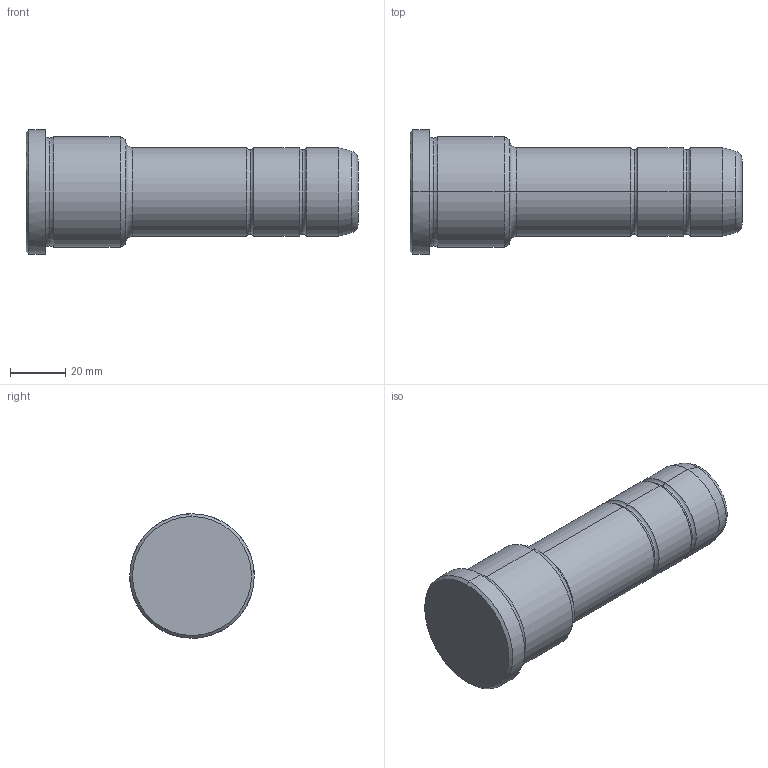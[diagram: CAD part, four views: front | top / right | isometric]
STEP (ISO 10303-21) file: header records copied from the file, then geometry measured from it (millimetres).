
FILE_DESCRIPTION(('CATIA V5 STEP Exchange'),'2;1');
FILE_NAME('C:\Users\Utente\Desktop\IO LAVORO\3D X SITO CF\X SITO\PLASTICA\351\351-32X36X120.stp','2021-09-07T13:34:52+00:00',('none'),('none'),'CATIA Version 5 Release 20 GA (IN-10)','CATIA V5 STEP AP203','none');
FILE_SCHEMA(('CONFIG_CONTROL_DESIGN'));
Length unit declared in the file: millimetre
Products named in the file (1): 351-32X36X120
Bounding box: 120 x 45 x 45 mm (x, y, z)
Volume: 113927 mm3; surface area: 15830 mm2
Topology: 1 solids, 1 shells, 36 faces, 102 edges, 70 vertices
Faces by surface type: torus 16, cylinder 10, cone 6, plane 4
Entity records: 1292 total; most frequent: CARTESIAN_POINT 321, ORIENTED_EDGE 204, DIRECTION 166, AXIS2_PLACEMENT_3D 115, EDGE_CURVE 102, CIRCLE 78, VERTEX_POINT 70, EDGE_LOOP 38
